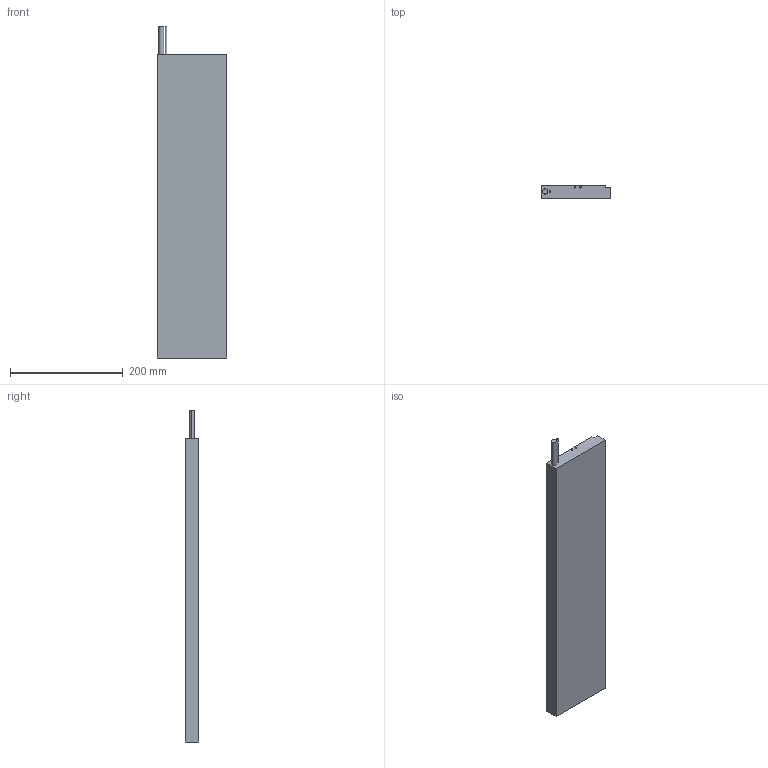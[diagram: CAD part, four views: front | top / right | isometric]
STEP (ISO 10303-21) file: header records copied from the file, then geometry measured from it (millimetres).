
FILE_DESCRIPTION (( 'STEP AP203' ), '1' );
FILE_NAME ('LMSAC5.STEP', '2016-05-13T06:01:38', ( '' ), ( '' ), 'SwSTEP 2.0', 'SolidWorks 2015', '' );
FILE_SCHEMA (( 'CONFIG_CONTROL_DESIGN' ));
Length unit declared in the file: millimetre
Products named in the file (1): LMSAC5
Bounding box: 123.5 x 23.7 x 588 mm (x, y, z)
Volume: 1553228 mm3; surface area: 168018.7 mm2
Topology: 1 solids, 1 shells, 204 faces, 506 edges, 259 vertices
Faces by surface type: cylinder 98, cone 94, plane 12
Entity records: 5413 total; most frequent: DIRECTION 1018, CARTESIAN_POINT 876, ORIENTED_EDGE 824, EDGE_CURVE 412, AXIS2_PLACEMENT_3D 401, VERTEX_POINT 259, EDGE_LOOP 253, VECTOR 216
